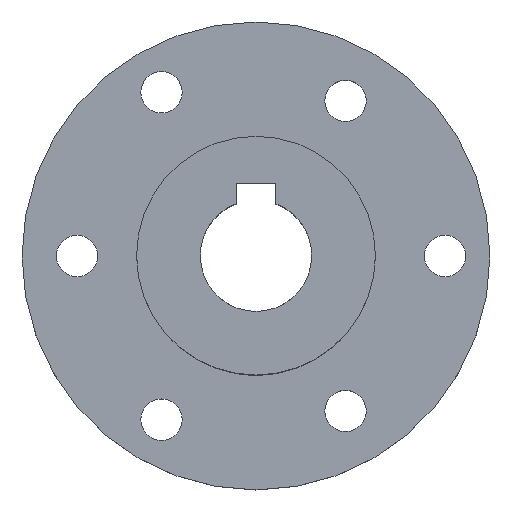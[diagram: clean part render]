
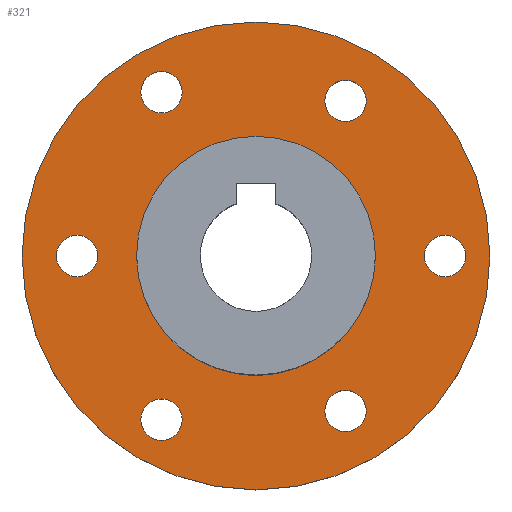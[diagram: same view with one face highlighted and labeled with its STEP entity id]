
A CAD part, top view. The second image highlights one B-rep face of the part: STEP entity #321.
In plain terms, the highlighted planar face has unit normal (0, 0, 1).
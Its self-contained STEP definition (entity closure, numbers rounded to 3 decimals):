
#15=FACE_BOUND('',#81,.T.);
#16=FACE_BOUND('',#82,.T.);
#17=FACE_BOUND('',#83,.T.);
#18=FACE_BOUND('',#84,.T.);
#19=FACE_BOUND('',#85,.T.);
#20=FACE_BOUND('',#86,.T.);
#21=FACE_BOUND('',#87,.T.);
#32=PLANE('',#353);
#38=CIRCLE('',#333,2.6);
#40=CIRCLE('',#336,2.6);
#42=CIRCLE('',#339,2.6);
#44=CIRCLE('',#342,2.6);
#46=CIRCLE('',#345,2.6);
#48=CIRCLE('',#348,2.6);
#50=CIRCLE('',#351,29.4);
#52=CIRCLE('',#354,15.);
#64=FACE_OUTER_BOUND('',#80,.T.);
#80=EDGE_LOOP('',(#254));
#81=EDGE_LOOP('',(#255));
#82=EDGE_LOOP('',(#256));
#83=EDGE_LOOP('',(#257));
#84=EDGE_LOOP('',(#258));
#85=EDGE_LOOP('',(#259));
#86=EDGE_LOOP('',(#260));
#87=EDGE_LOOP('',(#261));
#153=VERTEX_POINT('',#538);
#155=VERTEX_POINT('',#544);
#157=VERTEX_POINT('',#550);
#159=VERTEX_POINT('',#556);
#161=VERTEX_POINT('',#562);
#163=VERTEX_POINT('',#568);
#165=VERTEX_POINT('',#574);
#167=VERTEX_POINT('',#580);
#183=EDGE_CURVE('',#153,#153,#38,.T.);
#186=EDGE_CURVE('',#155,#155,#40,.T.);
#189=EDGE_CURVE('',#157,#157,#42,.T.);
#192=EDGE_CURVE('',#159,#159,#44,.T.);
#195=EDGE_CURVE('',#161,#161,#46,.T.);
#198=EDGE_CURVE('',#163,#163,#48,.T.);
#201=EDGE_CURVE('',#165,#165,#50,.T.);
#204=EDGE_CURVE('',#167,#167,#52,.T.);
#254=ORIENTED_EDGE('',*,*,#201,.T.);
#255=ORIENTED_EDGE('',*,*,#198,.T.);
#256=ORIENTED_EDGE('',*,*,#195,.T.);
#257=ORIENTED_EDGE('',*,*,#192,.T.);
#258=ORIENTED_EDGE('',*,*,#189,.T.);
#259=ORIENTED_EDGE('',*,*,#186,.T.);
#260=ORIENTED_EDGE('',*,*,#183,.T.);
#261=ORIENTED_EDGE('',*,*,#204,.F.);
#321=ADVANCED_FACE('',(#64,#15,#16,#17,#18,#19,#20,#21),#32,.T.);
#333=AXIS2_PLACEMENT_3D('',#539,#372,#373);
#336=AXIS2_PLACEMENT_3D('',#545,#379,#380);
#339=AXIS2_PLACEMENT_3D('',#551,#386,#387);
#342=AXIS2_PLACEMENT_3D('',#557,#393,#394);
#345=AXIS2_PLACEMENT_3D('',#563,#400,#401);
#348=AXIS2_PLACEMENT_3D('',#569,#407,#408);
#351=AXIS2_PLACEMENT_3D('',#575,#414,#415);
#353=AXIS2_PLACEMENT_3D('',#579,#419,#420);
#354=AXIS2_PLACEMENT_3D('',#581,#421,#422);
#372=DIRECTION('center_axis',(0.,0.,-1.));
#373=DIRECTION('ref_axis',(1.,0.,0.));
#379=DIRECTION('center_axis',(0.,0.,-1.));
#380=DIRECTION('ref_axis',(1.,0.,0.));
#386=DIRECTION('center_axis',(0.,0.,-1.));
#387=DIRECTION('ref_axis',(1.,0.,0.));
#393=DIRECTION('center_axis',(0.,0.,-1.));
#394=DIRECTION('ref_axis',(1.,0.,0.));
#400=DIRECTION('center_axis',(0.,0.,-1.));
#401=DIRECTION('ref_axis',(1.,0.,0.));
#407=DIRECTION('center_axis',(0.,0.,-1.));
#408=DIRECTION('ref_axis',(1.,0.,0.));
#414=DIRECTION('center_axis',(0.,0.,1.));
#415=DIRECTION('ref_axis',(1.,0.,0.));
#419=DIRECTION('center_axis',(0.,0.,1.));
#420=DIRECTION('ref_axis',(1.,0.,0.));
#421=DIRECTION('center_axis',(0.,0.,1.));
#422=DIRECTION('ref_axis',(1.,0.,0.));
#538=CARTESIAN_POINT('',(85.262,141.215,6.));
#539=CARTESIAN_POINT('Origin',(87.862,141.215,6.));
#544=CARTESIAN_POINT('',(62.137,101.161,6.));
#545=CARTESIAN_POINT('Origin',(64.737,101.161,6.));
#550=CARTESIAN_POINT('',(51.512,121.73,6.));
#551=CARTESIAN_POINT('Origin',(54.112,121.73,6.));
#556=CARTESIAN_POINT('',(97.762,121.73,6.));
#557=CARTESIAN_POINT('Origin',(100.362,121.73,6.));
#562=CARTESIAN_POINT('',(85.262,102.244,6.));
#563=CARTESIAN_POINT('Origin',(87.862,102.244,6.));
#568=CARTESIAN_POINT('',(62.137,142.298,6.));
#569=CARTESIAN_POINT('Origin',(64.737,142.298,6.));
#574=CARTESIAN_POINT('',(47.212,121.73,6.));
#575=CARTESIAN_POINT('Origin',(76.612,121.73,6.));
#579=CARTESIAN_POINT('Origin',(76.612,121.73,6.));
#580=CARTESIAN_POINT('',(61.612,121.73,6.));
#581=CARTESIAN_POINT('Origin',(76.612,121.73,6.));
